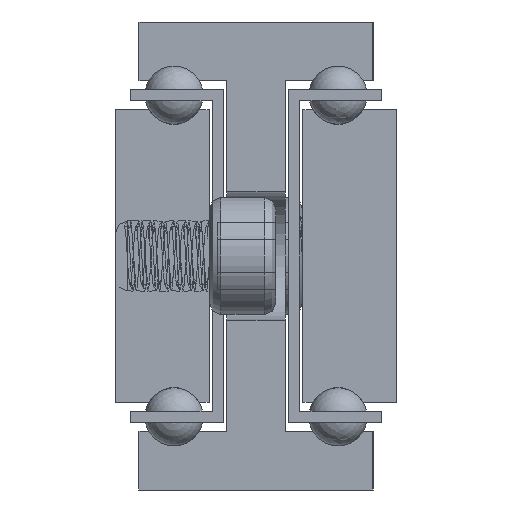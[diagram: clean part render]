
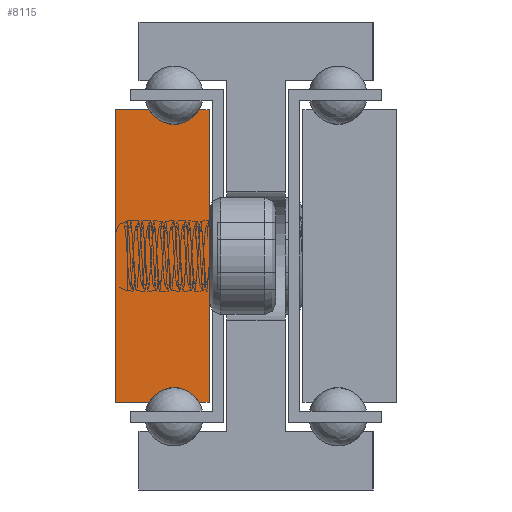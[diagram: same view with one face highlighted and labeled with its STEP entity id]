
A CAD part, front view. The second image highlights one B-rep face of the part: STEP entity #8115.
In plain terms, the highlighted planar face has unit normal (0, -1, 0).
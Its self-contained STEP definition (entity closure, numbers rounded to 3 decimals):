
#292=LINE('',#11714,#1126);
#295=LINE('',#11720,#1129);
#299=LINE('',#11732,#1133);
#302=LINE('',#11738,#1136);
#305=LINE('',#11744,#1139);
#309=LINE('',#11754,#1143);
#1126=VECTOR('',#9446,1.);
#1129=VECTOR('',#9451,1.);
#1133=VECTOR('',#9463,1.);
#1136=VECTOR('',#9468,1.);
#1139=VECTOR('',#9473,1.);
#1143=VECTOR('',#9485,1.);
#1965=PLANE('',#8717);
#2533=FACE_OUTER_BOUND('',#3047,.T.);
#3047=EDGE_LOOP('',(#5930,#5931,#5932,#5933,#5934,#5935,#5936,#5937));
#3739=CIRCLE('',#8708,2.5);
#3741=CIRCLE('',#8714,2.5);
#3966=VERTEX_POINT('',#11711);
#3967=VERTEX_POINT('',#11713);
#3969=VERTEX_POINT('',#11719);
#3971=VERTEX_POINT('',#11725);
#3973=VERTEX_POINT('',#11731);
#3975=VERTEX_POINT('',#11737);
#3977=VERTEX_POINT('',#11743);
#3979=VERTEX_POINT('',#11749);
#4804=EDGE_CURVE('',#3967,#3966,#292,.T.);
#4807=EDGE_CURVE('',#3969,#3967,#295,.T.);
#4810=EDGE_CURVE('',#3971,#3969,#3739,.T.);
#4813=EDGE_CURVE('',#3973,#3971,#299,.T.);
#4816=EDGE_CURVE('',#3975,#3973,#302,.T.);
#4819=EDGE_CURVE('',#3977,#3975,#305,.T.);
#4822=EDGE_CURVE('',#3979,#3977,#3741,.T.);
#4825=EDGE_CURVE('',#3966,#3979,#309,.T.);
#5930=ORIENTED_EDGE('',*,*,#4825,.T.);
#5931=ORIENTED_EDGE('',*,*,#4822,.T.);
#5932=ORIENTED_EDGE('',*,*,#4819,.T.);
#5933=ORIENTED_EDGE('',*,*,#4816,.T.);
#5934=ORIENTED_EDGE('',*,*,#4813,.T.);
#5935=ORIENTED_EDGE('',*,*,#4810,.T.);
#5936=ORIENTED_EDGE('',*,*,#4807,.T.);
#5937=ORIENTED_EDGE('',*,*,#4804,.T.);
#8115=ADVANCED_FACE('',(#2533),#1965,.T.);
#8708=AXIS2_PLACEMENT_3D('',#11726,#9457,#9458);
#8714=AXIS2_PLACEMENT_3D('',#11750,#9479,#9480);
#8717=AXIS2_PLACEMENT_3D('',#11756,#9488,#9489);
#9446=DIRECTION('',(0.,0.,-1.));
#9451=DIRECTION('',(-1.,0.,0.));
#9457=DIRECTION('center_axis',(0.,1.,0.));
#9458=DIRECTION('ref_axis',(-0.866,0.,-0.5));
#9463=DIRECTION('',(-1.,0.,0.));
#9468=DIRECTION('',(0.,0.,1.));
#9473=DIRECTION('',(1.,0.,0.));
#9479=DIRECTION('center_axis',(0.,1.,0.));
#9480=DIRECTION('ref_axis',(0.866,0.,0.5));
#9485=DIRECTION('',(1.,0.,0.));
#9488=DIRECTION('center_axis',(0.,-1.,0.));
#9489=DIRECTION('ref_axis',(1.,0.,0.));
#11711=CARTESIAN_POINT('',(2968.3,205.64,462.5));
#11713=CARTESIAN_POINT('',(2968.3,205.64,487.5));
#11714=CARTESIAN_POINT('',(2968.3,205.64,462.5));
#11719=CARTESIAN_POINT('',(2971.135,205.64,487.5));
#11720=CARTESIAN_POINT('',(2968.3,205.64,487.5));
#11725=CARTESIAN_POINT('',(2975.465,205.64,487.5));
#11726=CARTESIAN_POINT('Origin',(2973.3,205.64,488.75));
#11731=CARTESIAN_POINT('',(2976.3,205.64,487.5));
#11732=CARTESIAN_POINT('',(2975.465,205.64,487.5));
#11737=CARTESIAN_POINT('',(2976.3,205.64,462.5));
#11738=CARTESIAN_POINT('',(2976.3,205.64,487.5));
#11743=CARTESIAN_POINT('',(2975.465,205.64,462.5));
#11744=CARTESIAN_POINT('',(2976.3,205.64,462.5));
#11749=CARTESIAN_POINT('',(2971.135,205.64,462.5));
#11750=CARTESIAN_POINT('Origin',(2973.3,205.64,461.25));
#11754=CARTESIAN_POINT('',(2971.135,205.64,462.5));
#11756=CARTESIAN_POINT('Origin',(2972.288,205.64,475.));
